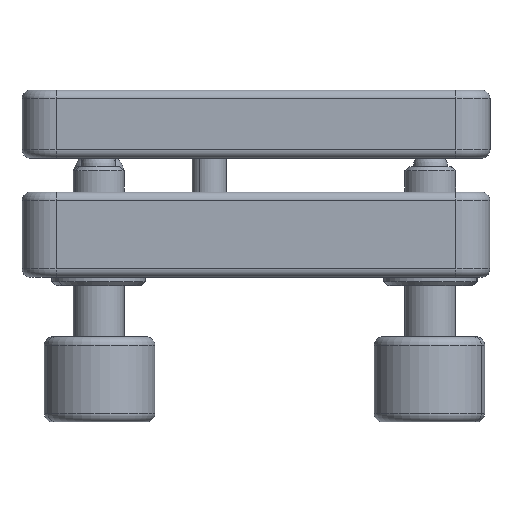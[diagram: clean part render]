
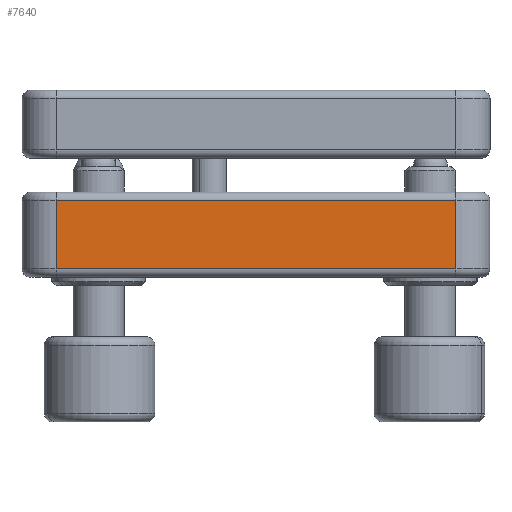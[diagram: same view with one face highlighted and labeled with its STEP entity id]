
A CAD part, front view. The second image highlights one B-rep face of the part: STEP entity #7640.
In plain terms, the highlighted planar face has unit normal (0, -1, 0).
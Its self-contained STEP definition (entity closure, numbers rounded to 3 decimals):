
#328 = CARTESIAN_POINT ( 'NONE',  ( -23.5, -27.5, -4. ) ) ;
#847 = ORIENTED_EDGE ( 'NONE', *, *, #11153, .T. ) ;
#882 = EDGE_CURVE ( 'NONE', #12986, #8492, #13679, .T. ) ;
#952 = VERTEX_POINT ( 'NONE', #8562 ) ;
#1321 = EDGE_LOOP ( 'NONE', ( #15690, #13616, #5199, #847 ) ) ;
#2387 = EDGE_CURVE ( 'NONE', #5788, #12986, #9120, .T. ) ;
#2460 = PLANE ( 'NONE',  #10524 ) ;
#2702 = VECTOR ( 'NONE', #12384, 1000. ) ;
#3500 = VECTOR ( 'NONE', #3636, 1000. ) ;
#3636 = DIRECTION ( 'NONE',  ( -1., 0., 0. ) ) ;
#4205 = VECTOR ( 'NONE', #4397, 1000. ) ;
#4397 = DIRECTION ( 'NONE',  ( 0., 0., -1. ) ) ;
#4619 = FACE_OUTER_BOUND ( 'NONE', #1321, .T. ) ;
#5199 = ORIENTED_EDGE ( 'NONE', *, *, #12669, .T. ) ;
#5788 = VERTEX_POINT ( 'NONE', #7614 ) ;
#7150 = CARTESIAN_POINT ( 'NONE',  ( 23.5, -27.5, -4. ) ) ;
#7199 = CARTESIAN_POINT ( 'NONE',  ( 27.5, -27.5, -4. ) ) ;
#7614 = CARTESIAN_POINT ( 'NONE',  ( -23.5, -27.5, 4. ) ) ;
#7640 = ADVANCED_FACE ( 'NONE', ( #4619 ), #2460, .F. ) ;
#8492 = VERTEX_POINT ( 'NONE', #7150 ) ;
#8562 = CARTESIAN_POINT ( 'NONE',  ( 23.5, -27.5, 4. ) ) ;
#8597 = LINE ( 'NONE', #13612, #3500 ) ;
#9072 = VECTOR ( 'NONE', #15912, 1000. ) ;
#9120 = LINE ( 'NONE', #10653, #4205 ) ;
#10254 = LINE ( 'NONE', #12141, #9072 ) ;
#10524 = AXIS2_PLACEMENT_3D ( 'NONE', #15051, #13634, #12588 ) ;
#10653 = CARTESIAN_POINT ( 'NONE',  ( -23.5, -27.5, 5. ) ) ;
#11153 = EDGE_CURVE ( 'NONE', #952, #5788, #8597, .T. ) ;
#12141 = CARTESIAN_POINT ( 'NONE',  ( 23.5, -27.5, 5. ) ) ;
#12384 = DIRECTION ( 'NONE',  ( 1., 0., 0. ) ) ;
#12588 = DIRECTION ( 'NONE',  ( 0., 0., 1. ) ) ;
#12669 = EDGE_CURVE ( 'NONE', #8492, #952, #10254, .T. ) ;
#12986 = VERTEX_POINT ( 'NONE', #328 ) ;
#13612 = CARTESIAN_POINT ( 'NONE',  ( -23.5, -27.5, 4. ) ) ;
#13616 = ORIENTED_EDGE ( 'NONE', *, *, #882, .T. ) ;
#13634 = DIRECTION ( 'NONE',  ( 0., 1., 0. ) ) ;
#13679 = LINE ( 'NONE', #7199, #2702 ) ;
#15051 = CARTESIAN_POINT ( 'NONE',  ( 27.5, -27.5, 5. ) ) ;
#15690 = ORIENTED_EDGE ( 'NONE', *, *, #2387, .T. ) ;
#15912 = DIRECTION ( 'NONE',  ( 0., 0., 1. ) ) ;
